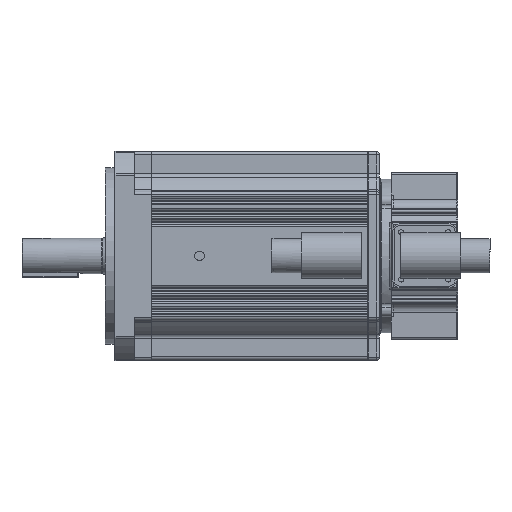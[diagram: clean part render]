
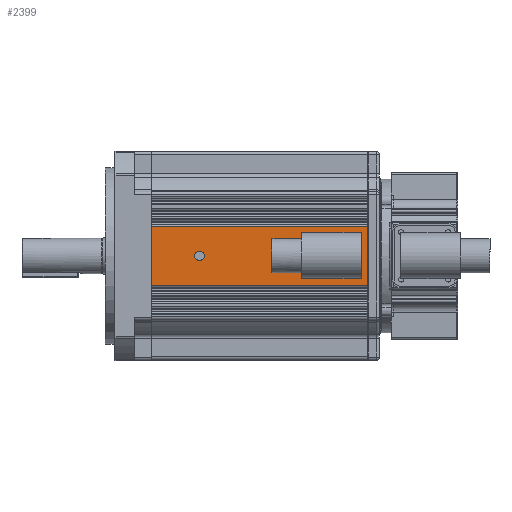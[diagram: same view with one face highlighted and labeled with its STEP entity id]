
A CAD part, top view. The second image highlights one B-rep face of the part: STEP entity #2399.
In plain terms, the highlighted planar face has unit normal (0, 0, 1) as drawn and (0, 1, 0) by its records, which use the part's own axes.
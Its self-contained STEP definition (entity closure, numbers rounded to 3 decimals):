
#2399 = ADVANCED_FACE( '', ( #5742, #5743 ), #5744, .F. );
#5742 = FACE_BOUND( '', #10309, .T. );
#5743 = FACE_OUTER_BOUND( '', #10310, .T. );
#5744 = PLANE( '', #10311 );
#10309 = EDGE_LOOP( '', ( #17023 ) );
#10310 = EDGE_LOOP( '', ( #17024, #17025, #17026, #17027 ) );
#10311 = AXIS2_PLACEMENT_3D( '', #17028, #17029, #17030 );
#17023 = ORIENTED_EDGE( '', *, *, #27249, .T. );
#17024 = ORIENTED_EDGE( '', *, *, #27464, .T. );
#17025 = ORIENTED_EDGE( '', *, *, #26355, .T. );
#17026 = ORIENTED_EDGE( '', *, *, #27989, .T. );
#17027 = ORIENTED_EDGE( '', *, *, #27990, .T. );
#17028 = CARTESIAN_POINT( '', ( 65., 65., 136. ) );
#17029 = DIRECTION( '', ( 0., -1., 0. ) );
#17030 = DIRECTION( '', ( 0., 0., -1. ) );
#26355 = EDGE_CURVE( '', #31422, #31420, #31423, .T. );
#27249 = EDGE_CURVE( '', #32960, #32960, #32961, .T. );
#27464 = EDGE_CURVE( '', #33299, #31422, #33300, .T. );
#27989 = EDGE_CURVE( '', #31420, #34098, #34099, .T. );
#27990 = EDGE_CURVE( '', #34098, #33299, #34100, .T. );
#31420 = VERTEX_POINT( '', #38494 );
#31422 = VERTEX_POINT( '', #38496 );
#31423 = LINE( '', #38497, #38498 );
#32960 = VERTEX_POINT( '', #40557 );
#32961 = CIRCLE( '', #40558, 3. );
#33299 = VERTEX_POINT( '', #41010 );
#33300 = LINE( '', #41011, #41012 );
#34098 = VERTEX_POINT( '', #42073 );
#34099 = LINE( '', #42074, #42075 );
#34100 = LINE( '', #42076, #42077 );
#38494 = CARTESIAN_POINT( '', ( -18.5, 65., 0.5 ) );
#38496 = CARTESIAN_POINT( '', ( 18.5, 65., 0.5 ) );
#38497 = CARTESIAN_POINT( '', ( 65., 65., 0.5 ) );
#38498 = VECTOR( '', #47650, 1000. );
#40557 = CARTESIAN_POINT( '', ( 0., 65., 27.5 ) );
#40558 = AXIS2_PLACEMENT_3D( '', #49115, #49116, #49117 );
#41010 = CARTESIAN_POINT( '', ( 18.5, 65., 135.5 ) );
#41011 = CARTESIAN_POINT( '', ( 18.5, 65., 136. ) );
#41012 = VECTOR( '', #49422, 1000. );
#42073 = CARTESIAN_POINT( '', ( -18.5, 65., 135.5 ) );
#42074 = CARTESIAN_POINT( '', ( -18.5, 65., 136. ) );
#42075 = VECTOR( '', #50161, 1000. );
#42076 = CARTESIAN_POINT( '', ( 65., 65., 135.5 ) );
#42077 = VECTOR( '', #50162, 1000. );
#47650 = DIRECTION( '', ( -1., 0., 0. ) );
#49115 = CARTESIAN_POINT( '', ( 0., 65., 30.5 ) );
#49116 = DIRECTION( '', ( 0., -1., 0. ) );
#49117 = DIRECTION( '', ( 0., 0., -1. ) );
#49422 = DIRECTION( '', ( 0., 0., -1. ) );
#50161 = DIRECTION( '', ( 0., 0., 1. ) );
#50162 = DIRECTION( '', ( 1., 0., 0. ) );
